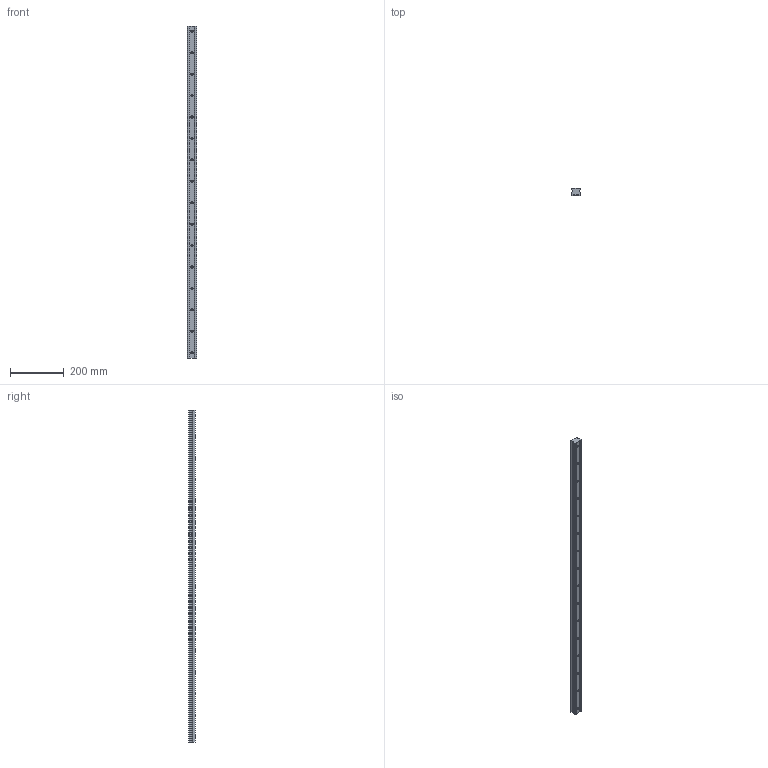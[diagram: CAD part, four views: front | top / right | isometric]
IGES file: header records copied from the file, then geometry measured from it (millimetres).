
Start section: SolidWorks IGES file using analytic representation for surfaces
Global section: file name: C:\Users\IanO\Desktop\Temp File\GENERAL\L1016_v2\L1016.RF35_v2\L1016.RF35_v2_20190612_IGES\L1016.RF35-1240.igs; native system: SolidWorks 2017; preprocessor: SolidWorks 2017; author: IanO; date: 190613.172713; units: millimetre
Bounding box: 34 x 26 x 1240 mm (x, y, z)
Surface area: 162575 mm2 (no closed solid volume)
Topology: 0 solids, 0 shells, 138 faces, 2088 edges, 2056 vertices
Faces by surface type: revolution 100, bspline 38
